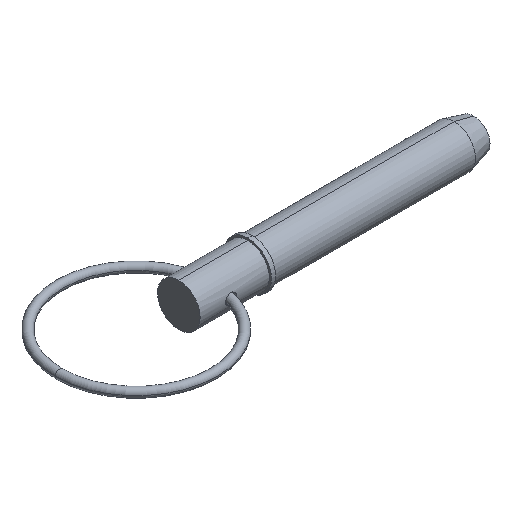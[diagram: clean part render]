
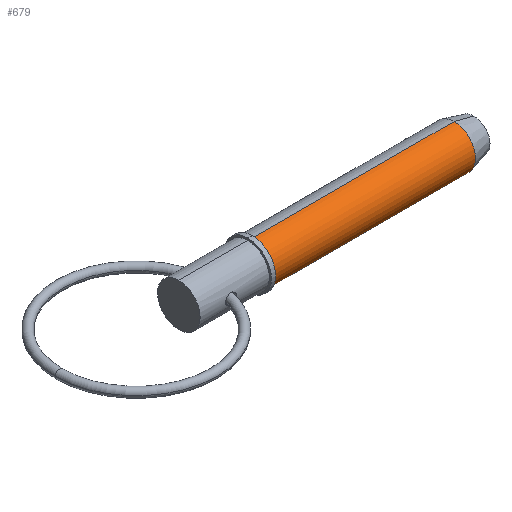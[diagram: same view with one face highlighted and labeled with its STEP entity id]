
A CAD part, isometric view. The second image highlights one B-rep face of the part: STEP entity #679.
In plain terms, the highlighted cylindrical face has radius 7.94 mm (diameter 15.88 mm), a partial arc.
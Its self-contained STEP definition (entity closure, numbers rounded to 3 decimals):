
#2 = CIRCLE ( 'NONE', #805, 7.94 ) ;
#53 = CARTESIAN_POINT ( 'NONE',  ( 27.31, 0., 0. ) ) ;
#87 = DIRECTION ( 'NONE',  ( 0., 0., -1. ) ) ;
#109 = ORIENTED_EDGE ( 'NONE', *, *, #574, .F. ) ;
#168 = DIRECTION ( 'NONE',  ( 1., 0., 0. ) ) ;
#170 = EDGE_CURVE ( 'NONE', #299, #442, #1043, .T. ) ;
#189 = ORIENTED_EDGE ( 'NONE', *, *, #367, .T. ) ;
#232 = AXIS2_PLACEMENT_3D ( 'NONE', #636, #1051, #975 ) ;
#255 = LINE ( 'NONE', #815, #264 ) ;
#264 = VECTOR ( 'NONE', #424, 1000. ) ;
#299 = VERTEX_POINT ( 'NONE', #301 ) ;
#301 = CARTESIAN_POINT ( 'NONE',  ( 27.31, 0., -7.94 ) ) ;
#302 = VERTEX_POINT ( 'NONE', #706 ) ;
#342 = VERTEX_POINT ( 'NONE', #376 ) ;
#365 = ORIENTED_EDGE ( 'NONE', *, *, #170, .T. ) ;
#367 = EDGE_CURVE ( 'NONE', #342, #299, #582, .T. ) ;
#376 = CARTESIAN_POINT ( 'NONE',  ( 27.31, 0., 7.94 ) ) ;
#381 = DIRECTION ( 'NONE',  ( 1., 0., 0. ) ) ;
#384 = EDGE_LOOP ( 'NONE', ( #684, #189, #365, #109 ) ) ;
#417 = FACE_OUTER_BOUND ( 'NONE', #384, .T. ) ;
#424 = DIRECTION ( 'NONE',  ( 1., 0., 0. ) ) ;
#442 = VERTEX_POINT ( 'NONE', #575 ) ;
#574 = EDGE_CURVE ( 'NONE', #302, #442, #2, .T. ) ;
#575 = CARTESIAN_POINT ( 'NONE',  ( 102.452, 0., -7.94 ) ) ;
#582 = CIRCLE ( 'NONE', #871, 7.94 ) ;
#636 = CARTESIAN_POINT ( 'NONE',  ( 0., 0., 0. ) ) ;
#679 = ADVANCED_FACE ( 'NONE', ( #417 ), #715, .T. ) ;
#684 = ORIENTED_EDGE ( 'NONE', *, *, #885, .F. ) ;
#688 = CARTESIAN_POINT ( 'NONE',  ( 0., 0., -7.94 ) ) ;
#692 = DIRECTION ( 'NONE',  ( 0., 0., -1. ) ) ;
#706 = CARTESIAN_POINT ( 'NONE',  ( 102.452, 0., 7.94 ) ) ;
#710 = DIRECTION ( 'NONE',  ( 1., 0., 0. ) ) ;
#715 = CYLINDRICAL_SURFACE ( 'NONE', #232, 7.94 ) ;
#770 = VECTOR ( 'NONE', #381, 1000. ) ;
#805 = AXIS2_PLACEMENT_3D ( 'NONE', #880, #168, #87 ) ;
#815 = CARTESIAN_POINT ( 'NONE',  ( 0., 0., 7.94 ) ) ;
#871 = AXIS2_PLACEMENT_3D ( 'NONE', #53, #710, #692 ) ;
#880 = CARTESIAN_POINT ( 'NONE',  ( 102.452, 0., 0. ) ) ;
#885 = EDGE_CURVE ( 'NONE', #342, #302, #255, .T. ) ;
#975 = DIRECTION ( 'NONE',  ( 0., 0., -1. ) ) ;
#1043 = LINE ( 'NONE', #688, #770 ) ;
#1051 = DIRECTION ( 'NONE',  ( 1., 0., 0. ) ) ;
